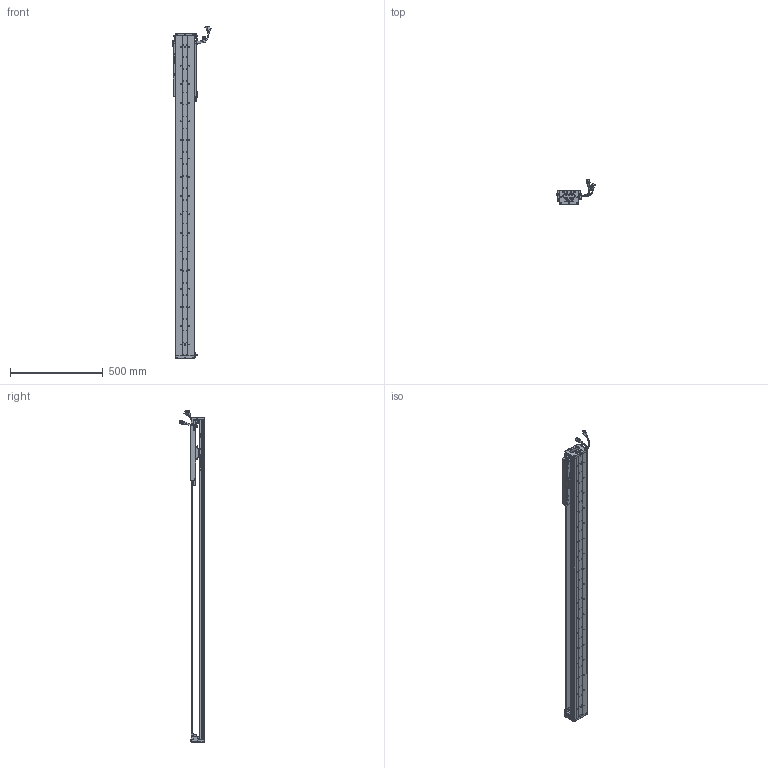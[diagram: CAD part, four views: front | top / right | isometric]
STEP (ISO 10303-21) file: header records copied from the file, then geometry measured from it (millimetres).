
FILE_DESCRIPTION (( 'STEP AP203' ), '1' );
FILE_NAME ('Z4-RY100D-1-L500-B-K.SLDASM_1350.step', '2021-05-17T03:02:50', ( '盈信电脑' ), ( '东莞市道滘镇水果街19号' ), 'SwSTEP 2.0', 'SolidWorks 2016', '' );
FILE_SCHEMA (( 'CONFIG_CONTROL_DESIGN' ));
Length unit declared in the file: millimetre
Products named in the file (36): SCALE-Part-1; HOLDER0; 榋妏寠巭燃_暯_M2_2; SCREW-M1.6-3; 覜茼ん672; LABEL; Z-100詩湍傷裔啣; 140雄赽晤鎢ん堤盄; HARNESS; 140蚥薯蝶輸; Z4-RY100-L500詩湍90mm遵_1350; SCREW-M1.6; SCALE; COVER; SCREW-M1.7-1; COVER-Part-1; Z4-RY100D-500-倰第菁釱_1350; HARNESS-Part-1; Z-RY100D詩湍狟揤裔; Z-RY100D詩湍奻揤裔; SCREW-M1.6-2; SCREW-M1.7; SCREW-M1.6-1; SEAL; SHIELDPLATE; LABEL-Part-1; SEAL-Part-1; HARNESS-Part-2; Z-RY100D覜茼んえ; 080黍杅芛假蚾釱21遴; 100-Z-臏賑輸盄裔(21遴); PSLH080_PSLF2; PBU_SHEET; Z4-RY100D-1-L500-B-K.SLDASM_1350; Z4-RY100铝滑块（21款）; SCALE-Part-2
Assembly tree (43 placements, depth 4):
  Z4-RY100D-1-L500-B-K.SLDASM_1350
    Z4-RY100D-500-倰第菁釱_1350
    Z4-RY100铝滑块（21款）
    PSLH080_PSLF2
      SCALE
        SCALE-Part-1
        SCALE-Part-2
      HARNESS
        HARNESS-Part-1
        HARNESS-Part-2
      LABEL
        LABEL-Part-1
      COVER
        COVER-Part-1
      SEAL
        SEAL-Part-1
      榋妏寠巭燃_暯_M2_2
      SHIELDPLATE
      SCREW-M1.7
      SCREW-M1.7-1
      PBU_SHEET
      SCREW-M1.6
      SCREW-M1.6-1
      SCREW-M1.6-2
      SCREW-M1.6-3
      HOLDER0
    080黍杅芛假蚾釱21遴
    Z-100詩湍傷裔啣  x2
    140蚥薯蝶輸  x2
    覜茼ん672  x3
    Z-RY100D覜茼んえ  x3
    100-Z-臏賑輸盄裔(21遴)
    140雄赽晤鎢ん堤盄
    Z4-RY100-L500詩湍90mm遵_1350
    Z-RY100D詩湍狟揤裔  x2
    Z-RY100D詩湍奻揤裔  x2
Bounding box: 205.83 x 136.11 x 1785.43 mm (x, y, z)
Volume: 3582530.6 mm3; surface area: 1375234 mm2
Topology: 38 solids, 38 shells, 2770 faces, 7399 edges, 4700 vertices
Faces by surface type: cylinder 1274, plane 1148, cone 226, torus 69, bspline 53
Entity records: 77511 total; most frequent: CARTESIAN_POINT 16274, DIRECTION 12387, ORIENTED_EDGE 11678, EDGE_CURVE 5839, AXIS2_PLACEMENT_3D 4605, VERTEX_POINT 3768, VECTOR 3177, LINE 3177
